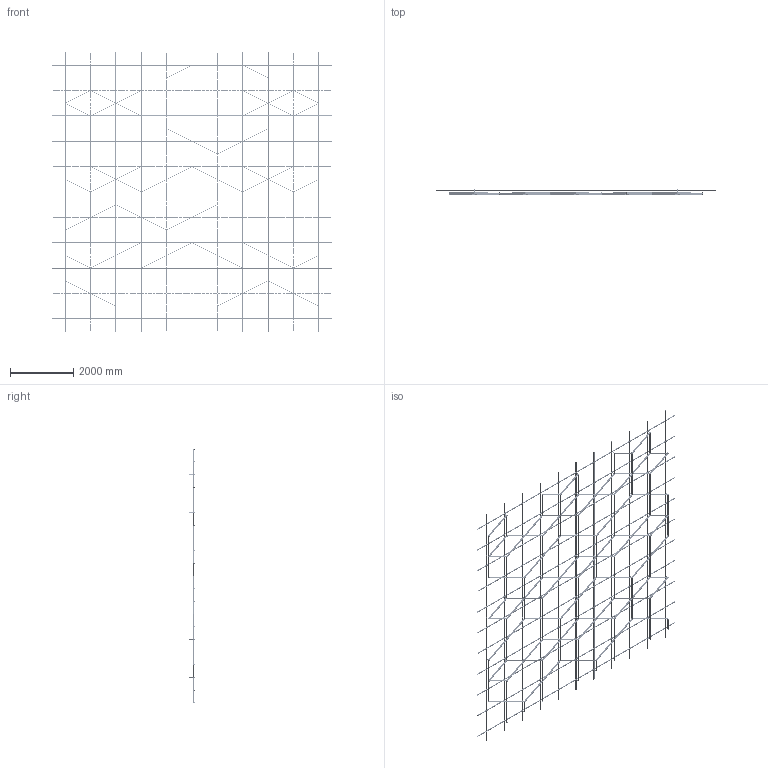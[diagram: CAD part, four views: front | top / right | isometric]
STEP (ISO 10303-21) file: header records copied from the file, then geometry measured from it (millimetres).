
FILE_DESCRIPTION (( 'STEP AP203' ), '1' );
FILE_NAME ('28 ìèíè ñ ïñ.step', '2025-11-25T13:14:01', ( '' ), ( '' ), 'SwSTEP 2.0', 'SolidWorks 2020', '' );
FILE_SCHEMA (( 'CONFIG_CONTROL_DESIGN' ));
Length unit declared in the file: millimetre
Products named in the file (5): 28 ìèíè ñ ïñ; SS.SEMA.2400 - Ñèìà-ïðîôèëü — îáðåçàí 1600; Ñèñòåìà â çîíå 8000õ8000; SS.SEMA.2400 - Ñèìà-ïðîôèëü; 謶鎷ar28
Assembly tree (90 placements, depth 3):
  28 ìèíè ñ ïñ
    Ñèñòåìà â çîíå 8000õ8000
      SS.SEMA.2400 - Ñèìà-ïðîôèëü  x66
      SS.SEMA.2400 - Ñèìà-ïðîôèëü — îáðåçàí 1600  x22
    謶鎷ar28
Bounding box: 8800 x 158 x 8800 mm (x, y, z)
Volume: 70851025.9 mm3; surface area: 43269959.2 mm2
Topology: 627 solids, 627 shells, 18958 faces, 51704 edges, 34000 vertices
Faces by surface type: cylinder 12634, plane 6324
Entity records: 71693 total; most frequent: CARTESIAN_POINT 16436, DIRECTION 10374, ORIENTED_EDGE 10256, EDGE_CURVE 5128, AXIS2_PLACEMENT_3D 4938, VERTEX_POINT 3408, EDGE_LOOP 2964, ADVANCED_FACE 2802
